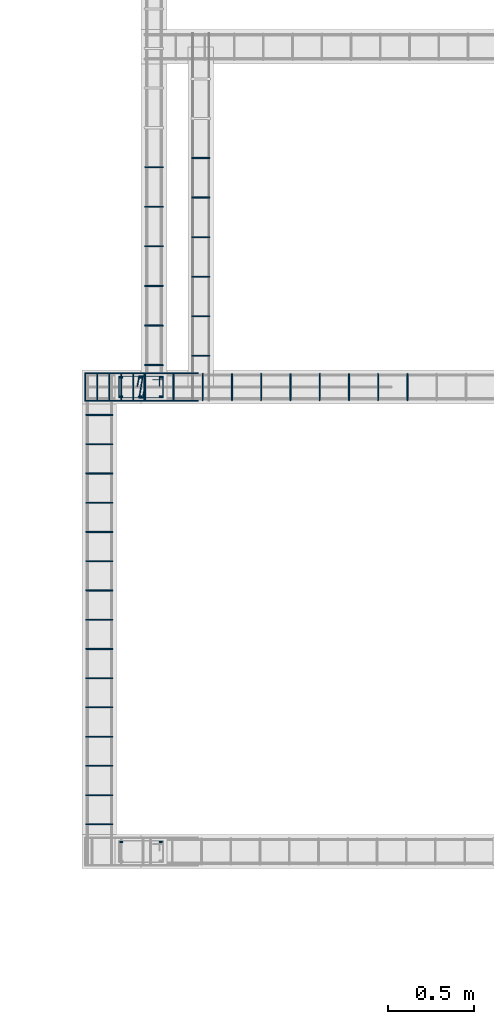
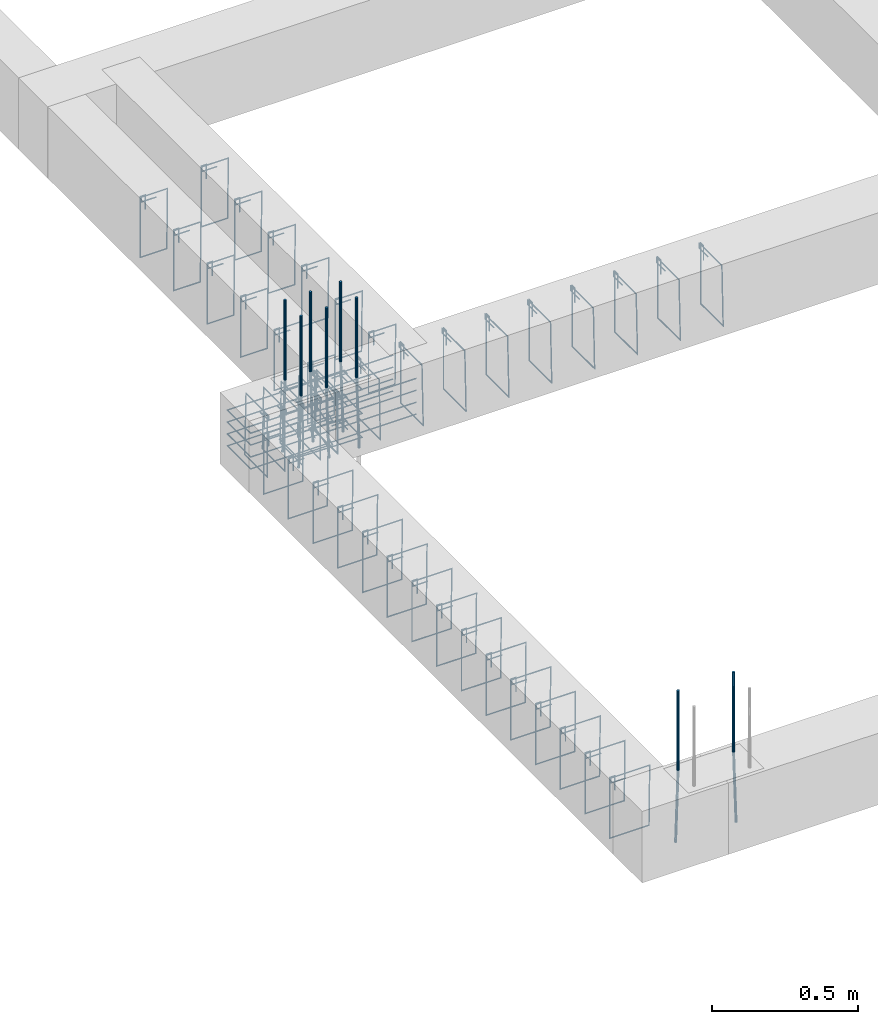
# One storey, part 128 of 150: 60 reinforcing bars.
"""IFC4 building model written with IfcOpenShell, lengths in centimetres."""

from ifc_helpers import new_model, entity, si_unit, derived_unit, frame, origin_with_axes, place, context, project, spatial, source, transform, mapped, element, save


model = new_model("IFC4")

# Units and contexts
model_context = context("Model", 3, precision=1e-05, world=origin_with_axes(), identifier="Body")
ifc_project = project(units=[si_unit("LENGTHUNIT", "METRE", prefix="CENTI"), si_unit("VOLUMEUNIT", "CUBIC_METRE"), si_unit("AREAUNIT", "SQUARE_METRE"), si_unit("POWERUNIT", "WATT"), si_unit("LUMINOUSFLUXUNIT", "LUMEN"), si_unit("ELECTRICCURRENTUNIT", "AMPERE"), si_unit("PRESSUREUNIT", "PASCAL", prefix="KILO"), si_unit("MASSUNIT", "GRAM", prefix="KILO"), si_unit("PLANEANGLEUNIT", "RADIAN"), derived_unit("VOLUMETRICFLOWRATEUNIT", [(si_unit("LENGTHUNIT", "METRE"), 3), (si_unit("TIMEUNIT", "SECOND"), -1)])], contexts=[model_context])

# Site, building, storey
site_placement = place(None, frame((-4000.0, 0.0, 0.0), z_axis=(0.0, 0.0, 1.0), x_axis=(1.0, 0.0, 0.0)))
site = spatial("IfcSite", under=ifc_project, at=site_placement, Name="PADRÃO")
building_placement = place(site_placement, frame((0.0, 0.0, -14.0)))
building = spatial("IfcBuilding", under=site, at=building_placement, Name="CRECHE PRÉ-ESCOLA TIPO 2")
placement = place(building_placement, origin_with_axes())
storey_placement = place(placement, frame((0.0, 0.0, 30.0), z_axis=(0.0, 0.0, 1.0), x_axis=(1.0, 0.0, 0.0)))
storey = spatial("IfcBuildingStorey", under=building, at=storey_placement, Name="VIGA BALDRAME", CompositionType="ELEMENT", Elevation=16.0)

# Reinforcing bars
shared_shape_1 = source(origin_with_axes(), model_context, "Body", "AdvancedSweptSolid", [
    entity("IfcSweptDiskSolid", entity("IfcCompositeCurve", [entity("IfcCompositeCurveSegment", "CONTINUOUS", True, entity("IfcPolyline", [entity("IfcCartesianPoint", [4.25, 21.75, 0.0]), entity("IfcCartesianPoint", [4.25, 27.75, 0.0])])), entity("IfcCompositeCurveSegment", "CONTINUOUS", True, entity("IfcPolyline", [entity("IfcCartesianPoint", [4.25, 27.75, 0.0]), entity("IfcCartesianPoint", [2.25, 27.75, 0.0])])), entity("IfcCompositeCurveSegment", "CONTINUOUS", True, entity("IfcPolyline", [entity("IfcCartesianPoint", [2.25, 27.75, 0.0]), entity("IfcCartesianPoint", [2.25, 2.25, 0.0])])), entity("IfcCompositeCurveSegment", "CONTINUOUS", True, entity("IfcPolyline", [entity("IfcCartesianPoint", [2.25, 2.25, 0.0]), entity("IfcCartesianPoint", [14.75, 2.25, 0.0])])), entity("IfcCompositeCurveSegment", "CONTINUOUS", True, entity("IfcPolyline", [entity("IfcCartesianPoint", [14.75, 2.25, 0.0]), entity("IfcCartesianPoint", [14.75, 27.75, -0.5])])), entity("IfcCompositeCurveSegment", "CONTINUOUS", True, entity("IfcPolyline", [entity("IfcCartesianPoint", [14.75, 27.75, -0.5]), entity("IfcCartesianPoint", [2.25, 27.75, -0.5])])), entity("IfcCompositeCurveSegment", "CONTINUOUS", True, entity("IfcPolyline", [entity("IfcCartesianPoint", [2.25, 27.75, -0.5]), entity("IfcCartesianPoint", [2.25, 25.75, -0.5])])), entity("IfcCompositeCurveSegment", "CONTINUOUS", True, entity("IfcPolyline", [entity("IfcCartesianPoint", [2.25, 25.75, -0.5]), entity("IfcCartesianPoint", [8.25, 25.75, -0.5])]))], False), 0.25),
])
for number, where, z_axis, x_axis, name in (
    (1, (2233.76, 3478.52, -15.0), (0.0, 0.0, 1.0), (0.0, -1.0, 0.0), "P42 - Estribo"),
    (2, (2233.76, 3478.52, -25.0), (0.0, 0.0, 1.0), (0.0, -1.0, 0.0), "P42 - Estribo"),
    (3, (2233.76, 3478.52, -5.0), (0.0, 0.0, 1.0), (0.0, -1.0, 0.0), "P42 - Estribo"),
):
    element("IfcReinforcingBar", number, at=place(storey_placement, frame(where, z_axis=z_axis, x_axis=x_axis)), inside=storey, Name=name, BarLength=0.0, CrossSectionArea=1.9634954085e-05, NominalDiameter=0.5, PredefinedType="MAIN", context=model_context, shape_type="MappedRepresentation", body=[
        mapped(shared_shape_1, transform((0.0, 0.0, 0.0), scale=1.0)),
    ])
shared_shape_2 = source(origin_with_axes(), model_context, "Body", "AdvancedSweptSolid", [
    entity("IfcSweptDiskSolid", entity("IfcCompositeCurve", [entity("IfcCompositeCurveSegment", "CONTINUOUS", True, entity("IfcPolyline", [entity("IfcCartesianPoint", [8.81925062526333, 17.1913887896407, 0.0]), entity("IfcCartesianPoint", [14.75, 16.0, 0.0])])), entity("IfcCompositeCurveSegment", "CONTINUOUS", True, entity("IfcPolyline", [entity("IfcCartesianPoint", [14.75, 16.0, 0.0]), entity("IfcCartesianPoint", [14.75, 14.0, 0.0])])), entity("IfcCompositeCurveSegment", "CONTINUOUS", True, entity("IfcPolyline", [entity("IfcCartesianPoint", [14.75, 14.0, 0.0]), entity("IfcCartesianPoint", [2.25, 16.0, 0.0])])), entity("IfcCompositeCurveSegment", "CONTINUOUS", True, entity("IfcPolyline", [entity("IfcCartesianPoint", [2.25, 16.0, 0.0]), entity("IfcCartesianPoint", [2.25, 14.0, 0.0])])), entity("IfcCompositeCurveSegment", "CONTINUOUS", True, entity("IfcPolyline", [entity("IfcCartesianPoint", [2.25, 14.0, 0.0]), entity("IfcCartesianPoint", [8.1807493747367, 12.8086112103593, 0.0])]))], False), 0.25),
])
for number, where, z_axis, x_axis, name in (
    (4, (2233.76, 3478.52, -4.5), (0.0, 0.0, 1.0), (0.0, -1.0, 0.0), "P42 - Grampo"),
    (5, (2233.76, 3478.52, -24.5), (0.0, 0.0, 1.0), (0.0, -1.0, 0.0), "P42 - Grampo"),
    (6, (2233.76, 3478.52, -14.5), (0.0, 0.0, 1.0), (0.0, -1.0, 0.0), "P42 - Grampo"),
):
    element("IfcReinforcingBar", number, at=place(storey_placement, frame(where, z_axis=z_axis, x_axis=x_axis)), inside=storey, Name=name, BarLength=0.0, CrossSectionArea=1.9634954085e-05, NominalDiameter=0.5, PredefinedType="MAIN", context=model_context, shape_type="MappedRepresentation", body=[
        mapped(shared_shape_2, transform((0.0, 0.0, 0.0), scale=1.0)),
    ])
shared_shape_3 = source(origin_with_axes(), model_context, "Body", "AdvancedSweptSolid", [
    entity("IfcSweptDiskSolid", entity("IfcCompositeCurve", [entity("IfcCompositeCurveSegment", "CONTINUOUS", True, entity("IfcPolyline", [entity("IfcCartesianPoint", [2.0, -6.0, 0.0]), entity("IfcCartesianPoint", [2.0, 0.0, 0.0])])), entity("IfcCompositeCurveSegment", "CONTINUOUS", True, entity("IfcPolyline", [entity("IfcCartesianPoint", [2.0, 0.0, 0.0]), entity("IfcCartesianPoint", [0.0, 0.0, 0.0])])), entity("IfcCompositeCurveSegment", "CONTINUOUS", True, entity("IfcPolyline", [entity("IfcCartesianPoint", [0.0, 0.0, 0.0]), entity("IfcCartesianPoint", [0.0, -25.5, 0.0])])), entity("IfcCompositeCurveSegment", "CONTINUOUS", True, entity("IfcPolyline", [entity("IfcCartesianPoint", [0.0, -25.5, 0.0]), entity("IfcCartesianPoint", [15.5, -25.5, 0.0])])), entity("IfcCompositeCurveSegment", "CONTINUOUS", True, entity("IfcPolyline", [entity("IfcCartesianPoint", [15.5, -25.5, 0.0]), entity("IfcCartesianPoint", [15.5, 0.0, 0.5])])), entity("IfcCompositeCurveSegment", "CONTINUOUS", True, entity("IfcPolyline", [entity("IfcCartesianPoint", [15.5, 0.0, 0.5]), entity("IfcCartesianPoint", [0.0, 0.0, 0.5])])), entity("IfcCompositeCurveSegment", "CONTINUOUS", True, entity("IfcPolyline", [entity("IfcCartesianPoint", [0.0, 0.0, 0.5]), entity("IfcCartesianPoint", [0.0, -2.0, 0.5])])), entity("IfcCompositeCurveSegment", "CONTINUOUS", True, entity("IfcPolyline", [entity("IfcCartesianPoint", [0.0, -2.0, 0.5]), entity("IfcCartesianPoint", [6.0, -2.0, 0.5])]))], False), 0.25),
])
for number, where, z_axis, x_axis, name in (
    (7, (2251.03, 3462.27, -2.25), (1.0, 0.0, 0.0), (0.0, 1.0, 0.0), "V111 - Estribo"),
    (8, (2244.03, 3462.27, -2.25), (1.0, 0.0, 0.0), (0.0, 1.0, 0.0), "V111 - Estribo"),
    (9, (2237.03, 3462.27, -2.25), (1.0, 0.0, 0.0), (0.0, 1.0, 0.0), "V111 - Estribo"),
    (10, (2230.03, 3462.27, -2.25), (1.0, 0.0, 0.0), (0.0, 1.0, 0.0), "V111 - Estribo"),
    (11, (2223.03, 3462.27, -2.25), (1.0, 0.0, 0.0), (0.0, 1.0, 0.0), "V111 - Estribo"),
):
    element("IfcReinforcingBar", number, at=place(storey_placement, frame(where, z_axis=z_axis, x_axis=x_axis)), inside=storey, Name=name, BarLength=0.0, CrossSectionArea=1.9634954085e-05, NominalDiameter=0.5, PredefinedType="MAIN", context=model_context, shape_type="MappedRepresentation", body=[
        mapped(shared_shape_3, transform((0.0, 0.0, 0.0), scale=1.0)),
    ])
shared_shape_4 = source(origin_with_axes(), model_context, "Body", "AdvancedSweptSolid", [
    entity("IfcSweptDiskSolid", entity("IfcCompositeCurve", [entity("IfcCompositeCurveSegment", "CONTINUOUS", True, entity("IfcPolyline", [entity("IfcCartesianPoint", [2.0, -6.0, 0.0]), entity("IfcCartesianPoint", [2.0, 0.0, 0.0])])), entity("IfcCompositeCurveSegment", "CONTINUOUS", True, entity("IfcPolyline", [entity("IfcCartesianPoint", [2.0, 0.0, 0.0]), entity("IfcCartesianPoint", [0.0, 0.0, 0.0])])), entity("IfcCompositeCurveSegment", "CONTINUOUS", True, entity("IfcPolyline", [entity("IfcCartesianPoint", [0.0, 0.0, 0.0]), entity("IfcCartesianPoint", [0.0, -25.5, 0.0])])), entity("IfcCompositeCurveSegment", "CONTINUOUS", True, entity("IfcPolyline", [entity("IfcCartesianPoint", [0.0, -25.5, 0.0]), entity("IfcCartesianPoint", [15.5, -25.5, 0.0])])), entity("IfcCompositeCurveSegment", "CONTINUOUS", True, entity("IfcPolyline", [entity("IfcCartesianPoint", [15.5, -25.5, 0.0]), entity("IfcCartesianPoint", [15.5, 0.0, 0.5])])), entity("IfcCompositeCurveSegment", "CONTINUOUS", True, entity("IfcPolyline", [entity("IfcCartesianPoint", [15.5, 0.0, 0.5]), entity("IfcCartesianPoint", [0.0, 0.0, 0.5])])), entity("IfcCompositeCurveSegment", "CONTINUOUS", True, entity("IfcPolyline", [entity("IfcCartesianPoint", [0.0, 0.0, 0.5]), entity("IfcCartesianPoint", [0.0, -2.0, 0.5])])), entity("IfcCompositeCurveSegment", "CONTINUOUS", True, entity("IfcPolyline", [entity("IfcCartesianPoint", [0.0, -2.0, 0.5]), entity("IfcCartesianPoint", [6.0, -2.0, 0.5])]))], False), 0.25),
])
for number, where, z_axis, x_axis, name in (
    (12, (2267.88, 3477.77, -2.25), (-1.0, 0.0, 0.0), (0.0, -1.0, 0.0), "V111 - Estribo"),
    (13, (2284.88, 3477.77, -2.25), (-1.0, 0.0, 0.0), (0.0, -1.0, 0.0), "V111 - Estribo"),
    (14, (2301.88, 3477.77, -2.25), (-1.0, 0.0, 0.0), (0.0, -1.0, 0.0), "V111 - Estribo"),
    (15, (2318.88, 3477.77, -2.25), (-1.0, 0.0, 0.0), (0.0, -1.0, 0.0), "V111 - Estribo"),
    (16, (2335.88, 3477.77, -2.25), (-1.0, 0.0, 0.0), (0.0, -1.0, 0.0), "V111 - Estribo"),
    (17, (2352.88, 3477.77, -2.25), (-1.0, 0.0, 0.0), (0.0, -1.0, 0.0), "V111 - Estribo"),
    (18, (2369.88, 3477.77, -2.25), (-1.0, 0.0, 0.0), (0.0, -1.0, 0.0), "V111 - Estribo"),
    (19, (2386.88, 3477.77, -2.25), (-1.0, 0.0, 0.0), (0.0, -1.0, 0.0), "V111 - Estribo"),
    (20, (2403.88, 3477.77, -2.25), (-1.0, 0.0, 0.0), (0.0, -1.0, 0.0), "V111 - Estribo"),
    (21, (2250.88, 3477.77, -2.25), (-1.0, 0.0, 0.0), (0.0, -1.0, 0.0), "V111 - Estribo"),
):
    element("IfcReinforcingBar", number, at=place(storey_placement, frame(where, z_axis=z_axis, x_axis=x_axis)), inside=storey, Name=name, BarLength=0.0, CrossSectionArea=1.9634954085e-05, NominalDiameter=0.5, PredefinedType="MAIN", context=model_context, shape_type="MappedRepresentation", body=[
        mapped(shared_shape_4, transform((0.0, 0.0, 0.0), scale=1.0)),
    ])
shared_shape_5 = source(origin_with_axes(), model_context, "Body", "AdvancedSweptSolid", [
    entity("IfcSweptDiskSolid", entity("IfcCompositeCurve", [entity("IfcCompositeCurveSegment", "CONTINUOUS", True, entity("IfcPolyline", [entity("IfcCartesianPoint", [0.0, 0.0, 0.0]), entity("IfcCartesianPoint", [-65.7013828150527, 0.0, 0.0])])), entity("IfcCompositeCurveSegment", "CONTINUOUS", True, entity("IfcPolyline", [entity("IfcCartesianPoint", [-65.7013828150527, 0.0, 0.0]), entity("IfcCartesianPoint", [-65.7013828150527, -16.0, 0.0])])), entity("IfcCompositeCurveSegment", "CONTINUOUS", True, entity("IfcPolyline", [entity("IfcCartesianPoint", [-65.7013828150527, -16.0, 0.0]), entity("IfcCartesianPoint", [0.0, -16.0, 0.0])]))], False), 0.25),
])
for number, where, z_axis, x_axis, name in (
    (22, (2281.98138281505, 3478.02, -6.875), (0.0, 0.0, 1.0), (1.0, 0.0, 0.0), "V111 - Grampo"),
    (23, (2281.98138281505, 3478.02, -21.875), (0.0, 0.0, 1.0), (1.0, 0.0, 0.0), "V111 - Grampo"),
    (24, (2281.98138281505, 3478.02, -16.875), (0.0, 0.0, 1.0), (1.0, 0.0, 0.0), "V111 - Grampo"),
    (25, (2281.98138281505, 3478.02, -11.875), (0.0, 0.0, 1.0), (1.0, 0.0, 0.0), "V111 - Grampo"),
):
    element("IfcReinforcingBar", number, at=place(storey_placement, frame(where, z_axis=z_axis, x_axis=x_axis)), inside=storey, Name=name, BarLength=0.0, CrossSectionArea=1.9634954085e-05, NominalDiameter=0.5, PredefinedType="MAIN", context=model_context, shape_type="MappedRepresentation", body=[
        mapped(shared_shape_5, transform((0.0, 0.0, 0.0), scale=1.0)),
    ])
shared_shape_6 = source(origin_with_axes(), model_context, "Body", "AdvancedSweptSolid", [
    entity("IfcSweptDiskSolid", entity("IfcCompositeCurve", [entity("IfcCompositeCurveSegment", "CONTINUOUS", True, entity("IfcPolyline", [entity("IfcCartesianPoint", [2.0, -6.0, 0.0]), entity("IfcCartesianPoint", [2.0, 0.0, 0.0])])), entity("IfcCompositeCurveSegment", "CONTINUOUS", True, entity("IfcPolyline", [entity("IfcCartesianPoint", [2.0, 0.0, 0.0]), entity("IfcCartesianPoint", [0.0, 0.0, 0.0])])), entity("IfcCompositeCurveSegment", "CONTINUOUS", True, entity("IfcPolyline", [entity("IfcCartesianPoint", [0.0, 0.0, 0.0]), entity("IfcCartesianPoint", [0.0, -25.5, 0.0])])), entity("IfcCompositeCurveSegment", "CONTINUOUS", True, entity("IfcPolyline", [entity("IfcCartesianPoint", [0.0, -25.5, 0.0]), entity("IfcCartesianPoint", [15.5, -25.5, 0.0])])), entity("IfcCompositeCurveSegment", "CONTINUOUS", True, entity("IfcPolyline", [entity("IfcCartesianPoint", [15.5, -25.5, 0.0]), entity("IfcCartesianPoint", [15.5, 0.0, 0.5])])), entity("IfcCompositeCurveSegment", "CONTINUOUS", True, entity("IfcPolyline", [entity("IfcCartesianPoint", [15.5, 0.0, 0.5]), entity("IfcCartesianPoint", [0.0, 0.0, 0.5])])), entity("IfcCompositeCurveSegment", "CONTINUOUS", True, entity("IfcPolyline", [entity("IfcCartesianPoint", [0.0, 0.0, 0.5]), entity("IfcCartesianPoint", [0.0, -2.0, 0.5])])), entity("IfcCompositeCurveSegment", "CONTINUOUS", True, entity("IfcPolyline", [entity("IfcCartesianPoint", [0.0, -2.0, 0.5]), entity("IfcCartesianPoint", [6.0, -2.0, 0.5])]))], False), 0.25),
])
for number, where, z_axis, x_axis, name in (
    (26, (2216.78, 3420.02, -2.25), (0.0, -1.0, 0.0), (1.0, 0.0, 0.0), "V191 - Estribo"),
    (27, (2216.78, 3403.02, -2.25), (0.0, -1.0, 0.0), (1.0, 0.0, 0.0), "V191 - Estribo"),
    (28, (2216.78, 3386.02, -2.25), (0.0, -1.0, 0.0), (1.0, 0.0, 0.0), "V191 - Estribo"),
    (29, (2216.78, 3369.02, -2.25), (0.0, -1.0, 0.0), (1.0, 0.0, 0.0), "V191 - Estribo"),
    (30, (2216.78, 3352.02, -2.25), (0.0, -1.0, 0.0), (1.0, 0.0, 0.0), "V191 - Estribo"),
    (31, (2216.78, 3335.02, -2.25), (0.0, -1.0, 0.0), (1.0, 0.0, 0.0), "V191 - Estribo"),
    (32, (2216.78, 3318.02, -2.25), (0.0, -1.0, 0.0), (1.0, 0.0, 0.0), "V191 - Estribo"),
    (33, (2216.78, 3301.02, -2.25), (0.0, -1.0, 0.0), (1.0, 0.0, 0.0), "V191 - Estribo"),
    (34, (2216.78, 3284.02, -2.25), (0.0, -1.0, 0.0), (1.0, 0.0, 0.0), "V191 - Estribo"),
    (35, (2216.78, 3454.02, -2.25), (0.0, -1.0, 0.0), (1.0, 0.0, 0.0), "V191 - Estribo"),
    (36, (2216.78, 3267.02, -2.25), (0.0, -1.0, 0.0), (1.0, 0.0, 0.0), "V191 - Estribo"),
    (37, (2216.78, 3250.02, -2.25), (0.0, -1.0, 0.0), (1.0, 0.0, 0.0), "V191 - Estribo"),
    (38, (2216.78, 3233.02, -2.25), (0.0, -1.0, 0.0), (1.0, 0.0, 0.0), "V191 - Estribo"),
    (39, (2216.78, 3216.02, -2.25), (0.0, -1.0, 0.0), (1.0, 0.0, 0.0), "V191 - Estribo"),
    (40, (2216.78, 3437.02, -2.25), (0.0, -1.0, 0.0), (1.0, 0.0, 0.0), "V191 - Estribo"),
):
    element("IfcReinforcingBar", number, at=place(storey_placement, frame(where, z_axis=z_axis, x_axis=x_axis)), inside=storey, Name=name, BarLength=0.0, CrossSectionArea=1.9634954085e-05, NominalDiameter=0.5, PredefinedType="MAIN", context=model_context, shape_type="MappedRepresentation", body=[
        mapped(shared_shape_6, transform((0.0, 0.0, 0.0), scale=1.0)),
    ])
shared_shape_7 = source(origin_with_axes(), model_context, "Body", "AdvancedSweptSolid", [
    entity("IfcSweptDiskSolid", entity("IfcCompositeCurve", [entity("IfcCompositeCurveSegment", "CONTINUOUS", True, entity("IfcPolyline", [entity("IfcCartesianPoint", [2.0, -6.0, 0.0]), entity("IfcCartesianPoint", [2.0, 0.0, 0.0])])), entity("IfcCompositeCurveSegment", "CONTINUOUS", True, entity("IfcPolyline", [entity("IfcCartesianPoint", [2.0, 0.0, 0.0]), entity("IfcCartesianPoint", [0.0, 0.0, 0.0])])), entity("IfcCompositeCurveSegment", "CONTINUOUS", True, entity("IfcPolyline", [entity("IfcCartesianPoint", [0.0, 0.0, 0.0]), entity("IfcCartesianPoint", [0.0, -25.5, 0.0])])), entity("IfcCompositeCurveSegment", "CONTINUOUS", True, entity("IfcPolyline", [entity("IfcCartesianPoint", [0.0, -25.5, 0.0]), entity("IfcCartesianPoint", [10.5, -25.5, 0.0])])), entity("IfcCompositeCurveSegment", "CONTINUOUS", True, entity("IfcPolyline", [entity("IfcCartesianPoint", [10.5, -25.5, 0.0]), entity("IfcCartesianPoint", [10.5, 0.0, 0.5])])), entity("IfcCompositeCurveSegment", "CONTINUOUS", True, entity("IfcPolyline", [entity("IfcCartesianPoint", [10.5, 0.0, 0.5]), entity("IfcCartesianPoint", [0.0, 0.0, 0.5])])), entity("IfcCompositeCurveSegment", "CONTINUOUS", True, entity("IfcPolyline", [entity("IfcCartesianPoint", [0.0, 0.0, 0.5]), entity("IfcCartesianPoint", [0.0, -2.0, 0.5])])), entity("IfcCompositeCurveSegment", "CONTINUOUS", True, entity("IfcPolyline", [entity("IfcCartesianPoint", [0.0, -2.0, 0.5]), entity("IfcCartesianPoint", [6.0, -2.0, 0.5])]))], False), 0.25),
])
for number, where, z_axis, x_axis, name in (
    (41, (2251.01, 3598.01, -2.25), (0.0, -1.0, 0.0), (1.0, 0.0, 0.0), "V193 - Estribo"),
    (42, (2251.01, 3575.01, -2.25), (0.0, -1.0, 0.0), (1.0, 0.0, 0.0), "V193 - Estribo"),
    (43, (2251.01, 3506.01, -2.25), (0.0, -1.0, 0.0), (1.0, 0.0, 0.0), "V193 - Estribo"),
    (44, (2251.01, 3483.01, -2.25), (0.0, -1.0, 0.0), (1.0, 0.0, 0.0), "V193 - Estribo"),
    (45, (2251.01, 3529.01, -2.25), (0.0, -1.0, 0.0), (1.0, 0.0, 0.0), "V193 - Estribo"),
    (46, (2251.01, 3552.01, -2.25), (0.0, -1.0, 0.0), (1.0, 0.0, 0.0), "V193 - Estribo"),
):
    element("IfcReinforcingBar", number, at=place(storey_placement, frame(where, z_axis=z_axis, x_axis=x_axis)), inside=storey, Name=name, BarLength=0.0, CrossSectionArea=1.9634954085e-05, NominalDiameter=0.5, PredefinedType="MAIN", context=model_context, shape_type="MappedRepresentation", body=[
        mapped(shared_shape_7, transform((0.0, 0.0, 0.0), scale=1.0)),
    ])
shared_shape_8 = source(origin_with_axes(), model_context, "Body", "AdvancedSweptSolid", [
    entity("IfcSweptDiskSolid", entity("IfcCompositeCurve", [entity("IfcCompositeCurveSegment", "CONTINUOUS", True, entity("IfcPolyline", [entity("IfcCartesianPoint", [2.0, -6.0, 0.0]), entity("IfcCartesianPoint", [2.0, 0.0, 0.0])])), entity("IfcCompositeCurveSegment", "CONTINUOUS", True, entity("IfcPolyline", [entity("IfcCartesianPoint", [2.0, 0.0, 0.0]), entity("IfcCartesianPoint", [0.0, 0.0, 0.0])])), entity("IfcCompositeCurveSegment", "CONTINUOUS", True, entity("IfcPolyline", [entity("IfcCartesianPoint", [0.0, 0.0, 0.0]), entity("IfcCartesianPoint", [0.0, -25.5, 0.0])])), entity("IfcCompositeCurveSegment", "CONTINUOUS", True, entity("IfcPolyline", [entity("IfcCartesianPoint", [0.0, -25.5, 0.0]), entity("IfcCartesianPoint", [10.5, -25.5, 0.0])])), entity("IfcCompositeCurveSegment", "CONTINUOUS", True, entity("IfcPolyline", [entity("IfcCartesianPoint", [10.5, -25.5, 0.0]), entity("IfcCartesianPoint", [10.5, 0.0, 0.5])])), entity("IfcCompositeCurveSegment", "CONTINUOUS", True, entity("IfcPolyline", [entity("IfcCartesianPoint", [10.5, 0.0, 0.5]), entity("IfcCartesianPoint", [0.0, 0.0, 0.5])])), entity("IfcCompositeCurveSegment", "CONTINUOUS", True, entity("IfcPolyline", [entity("IfcCartesianPoint", [0.0, 0.0, 0.5]), entity("IfcCartesianPoint", [0.0, -2.0, 0.5])])), entity("IfcCompositeCurveSegment", "CONTINUOUS", True, entity("IfcPolyline", [entity("IfcCartesianPoint", [0.0, -2.0, 0.5]), entity("IfcCartesianPoint", [6.0, -2.0, 0.5])]))], False), 0.25),
])
for number, where, z_axis, x_axis, name in (
    (47, (2278.25, 3488.385, -2.25), (0.0, -1.0, 0.0), (1.0, 0.0, 0.0), "V192 - Estribo"),
    (48, (2278.25, 3511.385, -2.25), (0.0, -1.0, 0.0), (1.0, 0.0, 0.0), "V192 - Estribo"),
    (49, (2278.25, 3534.385, -2.25), (0.0, -1.0, 0.0), (1.0, 0.0, 0.0), "V192 - Estribo"),
    (50, (2278.25, 3557.385, -2.25), (0.0, -1.0, 0.0), (1.0, 0.0, 0.0), "V192 - Estribo"),
    (51, (2278.25, 3580.385, -2.25), (0.0, -1.0, 0.0), (1.0, 0.0, 0.0), "V192 - Estribo"),
    (52, (2278.25, 3603.385, -2.25), (0.0, -1.0, 0.0), (1.0, 0.0, 0.0), "V192 - Estribo"),
):
    element("IfcReinforcingBar", number, at=place(storey_placement, frame(where, z_axis=z_axis, x_axis=x_axis)), inside=storey, Name=name, BarLength=0.0, CrossSectionArea=1.9634954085e-05, NominalDiameter=0.5, PredefinedType="MAIN", context=model_context, shape_type="MappedRepresentation", body=[
        mapped(shared_shape_8, transform((0.0, 0.0, 0.0), scale=1.0)),
    ])
reinforcing_bar_1_placement = place(storey_placement, frame((2237.26013877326, 3475.52, 33.3573001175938), z_axis=(0.0, 0.0, 1.0), x_axis=(1.0, 0.0, 0.0)))
element("IfcReinforcingBar", 53, at=reinforcing_bar_1_placement, inside=storey, Name="P42 - Longitudinal", BarLength=0.0, CrossSectionArea=7.853981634e-05, NominalDiameter=1.0, PredefinedType="MAIN", context=model_context, shape_type="AdvancedSweptSolid", body=[
    entity("IfcSweptDiskSolid", entity("IfcCompositeCurve", [entity("IfcCompositeCurveSegment", "CONTINUOUS", True, entity("IfcPolyline", [entity("IfcCartesianPoint", [-0.500138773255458, 0.0, -63.3573001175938]), entity("IfcCartesianPoint", [0.499861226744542, 0.0, -33.3573001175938])])), entity("IfcCompositeCurveSegment", "CONTINUOUS", True, entity("IfcPolyline", [entity("IfcCartesianPoint", [0.499861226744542, 0.0, -33.3573001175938]), entity("IfcCartesianPoint", [0.499861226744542, 0.0, 0.0])]))], False), 0.5),
])
for number, where, z_axis, x_axis, name in (
    (54, (2260.25986122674, 3464.52, 33.3573001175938), (0.0, 0.0, 1.0), (1.0, 0.0, 0.0), "P42 - Longitudinal"),
    (55, (2248.25986122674, 3464.52, 33.3573001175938), (0.0, 0.0, 1.0), (1.0, 0.0, 0.0), "P42 - Longitudinal"),
    (56, (2248.25986122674, 3475.52, 33.3573001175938), (0.0, 0.0, 1.0), (1.0, 0.0, 0.0), "P42 - Longitudinal"),
):
    element("IfcReinforcingBar", number, at=place(storey_placement, frame(where, z_axis=z_axis, x_axis=x_axis)), inside=storey, Name=name, BarLength=0.0, CrossSectionArea=7.853981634e-05, NominalDiameter=1.0, PredefinedType="MAIN", context=model_context, shape_type="AdvancedSweptSolid", body=[
        entity("IfcSweptDiskSolid", entity("IfcCompositeCurve", [entity("IfcCompositeCurveSegment", "CONTINUOUS", True, entity("IfcPolyline", [entity("IfcCartesianPoint", [0.500138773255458, 0.0, -63.3573001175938]), entity("IfcCartesianPoint", [-0.499861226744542, 0.0, -33.3573001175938])])), entity("IfcCompositeCurveSegment", "CONTINUOUS", True, entity("IfcPolyline", [entity("IfcCartesianPoint", [-0.499861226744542, 0.0, -33.3573001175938]), entity("IfcCartesianPoint", [-0.499861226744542, 0.0, 0.0])]))], False), 0.5),
    ])
reinforcing_bar_2_placement = place(storey_placement, frame((2237.26013877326, 3464.52, 33.3573001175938), z_axis=(0.0, 0.0, 1.0), x_axis=(1.0, 0.0, 0.0)))
element("IfcReinforcingBar", 57, at=reinforcing_bar_2_placement, inside=storey, Name="P42 - Longitudinal", BarLength=0.0, CrossSectionArea=7.853981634e-05, NominalDiameter=1.0, PredefinedType="MAIN", context=model_context, shape_type="AdvancedSweptSolid", body=[
    entity("IfcSweptDiskSolid", entity("IfcCompositeCurve", [entity("IfcCompositeCurveSegment", "CONTINUOUS", True, entity("IfcPolyline", [entity("IfcCartesianPoint", [-0.500138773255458, 0.0, -63.3573001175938]), entity("IfcCartesianPoint", [0.499861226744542, 0.0, -33.3573001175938])])), entity("IfcCompositeCurveSegment", "CONTINUOUS", True, entity("IfcPolyline", [entity("IfcCartesianPoint", [0.499861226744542, 0.0, -33.3573001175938]), entity("IfcCartesianPoint", [0.499861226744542, 0.0, 0.0])]))], False), 0.5),
])
for number, where, z_axis, x_axis, name in (
    (58, (2260.25986122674, 3475.52, 33.3573001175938), (0.0, 0.0, 1.0), (1.0, 0.0, 0.0), "P42 - Longitudinal"),
    (59, (2260.25986122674, 3205.52, 33.3573001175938), (0.0, 0.0, 1.0), (1.0, 0.0, 0.0), "P52 - Longitudinal"),
):
    element("IfcReinforcingBar", number, at=place(storey_placement, frame(where, z_axis=z_axis, x_axis=x_axis)), inside=storey, Name=name, BarLength=0.0, CrossSectionArea=7.853981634e-05, NominalDiameter=1.0, PredefinedType="MAIN", context=model_context, shape_type="AdvancedSweptSolid", body=[
        entity("IfcSweptDiskSolid", entity("IfcCompositeCurve", [entity("IfcCompositeCurveSegment", "CONTINUOUS", True, entity("IfcPolyline", [entity("IfcCartesianPoint", [0.500138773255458, 0.0, -63.3573001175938]), entity("IfcCartesianPoint", [-0.499861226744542, 0.0, -33.3573001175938])])), entity("IfcCompositeCurveSegment", "CONTINUOUS", True, entity("IfcPolyline", [entity("IfcCartesianPoint", [-0.499861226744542, 0.0, -33.3573001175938]), entity("IfcCartesianPoint", [-0.499861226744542, 0.0, 0.0])]))], False), 0.5),
    ])
reinforcing_bar_3_placement = place(storey_placement, frame((2237.26013877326, 3205.52, 33.3573001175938), z_axis=(0.0, 0.0, 1.0), x_axis=(1.0, 0.0, 0.0)))
element("IfcReinforcingBar", 60, at=reinforcing_bar_3_placement, inside=storey, Name="P52 - Longitudinal", BarLength=0.0, CrossSectionArea=7.853981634e-05, NominalDiameter=1.0, PredefinedType="MAIN", context=model_context, shape_type="AdvancedSweptSolid", body=[
    entity("IfcSweptDiskSolid", entity("IfcCompositeCurve", [entity("IfcCompositeCurveSegment", "CONTINUOUS", True, entity("IfcPolyline", [entity("IfcCartesianPoint", [-0.500138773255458, 0.0, -63.3573001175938]), entity("IfcCartesianPoint", [0.499861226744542, 0.0, -33.3573001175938])])), entity("IfcCompositeCurveSegment", "CONTINUOUS", True, entity("IfcPolyline", [entity("IfcCartesianPoint", [0.499861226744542, 0.0, -33.3573001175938]), entity("IfcCartesianPoint", [0.499861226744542, 0.0, 0.0])]))], False), 0.5),
])

save(model, "model.ifc")
